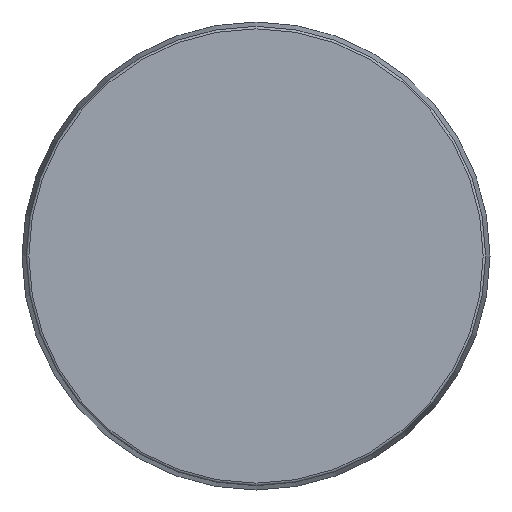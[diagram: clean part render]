
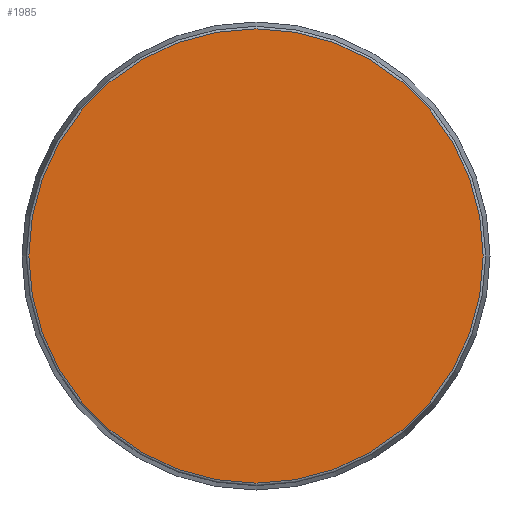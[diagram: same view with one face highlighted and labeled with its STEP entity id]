
A CAD part, front view. The second image highlights one B-rep face of the part: STEP entity #1985.
In plain terms, the highlighted planar face has unit normal (0, -1, 0).
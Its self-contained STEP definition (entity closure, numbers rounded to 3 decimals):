
#349=FACE_OUTER_BOUND('',#467,.T.);
#467=EDGE_LOOP('',(#1337,#1338));
#612=CIRCLE('',#2260,72.811);
#613=CIRCLE('',#2261,72.811);
#812=VERTEX_POINT('',#3296);
#813=VERTEX_POINT('',#3297);
#1031=EDGE_CURVE('',#812,#813,#612,.T.);
#1032=EDGE_CURVE('',#813,#812,#613,.T.);
#1337=ORIENTED_EDGE('',*,*,#1031,.F.);
#1338=ORIENTED_EDGE('',*,*,#1032,.F.);
#1949=PLANE('',#2259);
#1985=ADVANCED_FACE('',(#349),#1949,.T.);
#2259=AXIS2_PLACEMENT_3D('',#3295,#2584,#2585);
#2260=AXIS2_PLACEMENT_3D('',#3298,#2586,#2587);
#2261=AXIS2_PLACEMENT_3D('',#3299,#2588,#2589);
#2584=DIRECTION('center_axis',(0.,-1.,0.));
#2585=DIRECTION('ref_axis',(0.,0.,-1.));
#2586=DIRECTION('center_axis',(0.,1.,0.));
#2587=DIRECTION('ref_axis',(1.,0.,0.));
#2588=DIRECTION('center_axis',(0.,1.,0.));
#2589=DIRECTION('ref_axis',(1.,0.,0.));
#3295=CARTESIAN_POINT('Origin',(-72.811,0.,0.));
#3296=CARTESIAN_POINT('',(-72.811,0.,0.));
#3297=CARTESIAN_POINT('',(0.,0.,-72.811));
#3298=CARTESIAN_POINT('Origin',(0.,0.,0.));
#3299=CARTESIAN_POINT('Origin',(0.,0.,0.));
